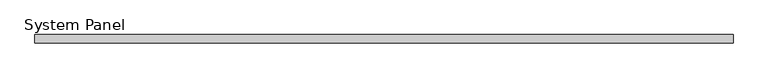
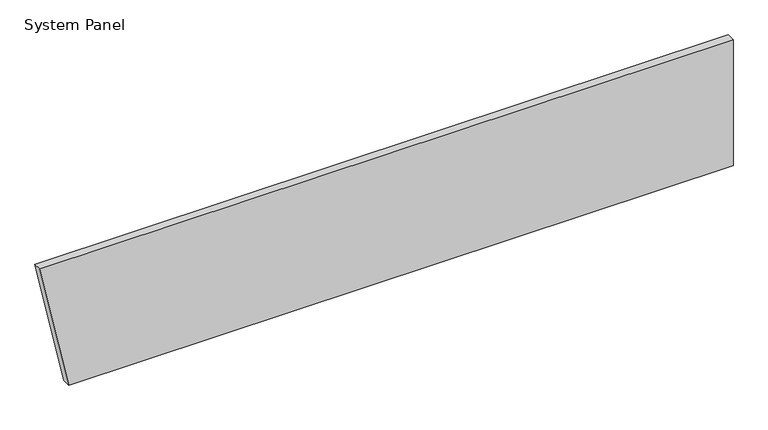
"""IFC4 building model written with IfcOpenShell, lengths in millimetres: plate geometry, System Panel : Equitilt_FlameGuard_75mm_Plain_Surfmist."""

from ifc_helpers import new_model, si_unit, frame, origin, place, context, project, spatial, polyline, outline, extrude, source, transform, mapped, element, save


def system_panel_d40e5325(model_context):
    return source(origin(), model_context, "Body", "SweptSolid", [
        extrude(outline(polyline([(0.0, -2864.5641691), (0.0, 3125.4358309), (1200.0, 3125.4358309), (1200.0, -3125.4358309), (0.0, -2864.5641691)])), frame((0.0, -75.0, 0.0), z_axis=(0.0, 1.0, 0.0), x_axis=(0.0, 0.0, 1.0)), (0.0, 0.0, 1.0), 75.0),
    ])


if __name__ == "__main__":
    model = new_model("IFC4")
    model_context = context("Model", 3, world=origin())
    ifc_project = project(units=[si_unit("LENGTHUNIT", "METRE", prefix="MILLI")], contexts=[model_context])
    site = spatial("IfcSite", under=ifc_project)
    building = spatial("IfcBuilding", under=site)
    placement = place(None, origin())
    system_panel_shape = system_panel_d40e5325(model_context)
    element("IfcPlate", 1, ObjectType="System Panel : Equitilt_FlameGuard_75mm_Plain_Surfmist", at=placement, inside=building, context=model_context, shape_type="MappedRepresentation", body=[
        mapped(system_panel_shape, transform((0.0, 0.0, 0.0), x_axis=(1.0, 0.0, 0.0), y_axis=(0.0, 1.0, 0.0), z_axis=(0.0, 0.0, 1.0))),
    ])
    save(model, "model.ifc")
